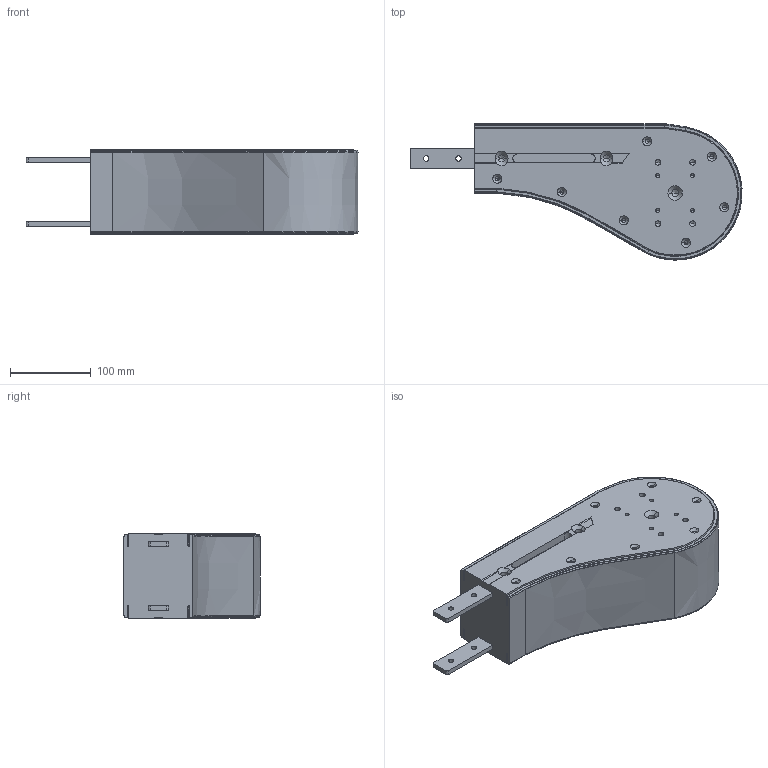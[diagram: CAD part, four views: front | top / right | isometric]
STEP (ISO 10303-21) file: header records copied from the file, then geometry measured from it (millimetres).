
FILE_DESCRIPTION (( 'STEP AP214' ), '1' );
FILE_NAME ('FCIE A105.step', '2017-04-07T11:06:30', ( '' ), ( '' ), 'SwSTEP 2.0', 'SolidWorks 2016', '' );
FILE_SCHEMA (( 'AUTOMOTIVE_DESIGN' ));
Length unit declared in the file: millimetre
Products named in the file (1): FCIE A105
Bounding box: 411.34 x 168.56 x 105 mm (x, y, z)
Volume: 4162323.3 mm3; surface area: 235814 mm2
Topology: 1 solids, 1 shells, 343 faces, 837 edges, 458 vertices
Faces by surface type: cone 116, cylinder 113, plane 67, bspline 41, torus 6
Entity records: 13399 total; most frequent: CARTESIAN_POINT 4445, DIRECTION 1574, ORIENTED_EDGE 1530, EDGE_CURVE 765, AXIS2_PLACEMENT_3D 589, VERTEX_POINT 458, LINE 396, VECTOR 396
